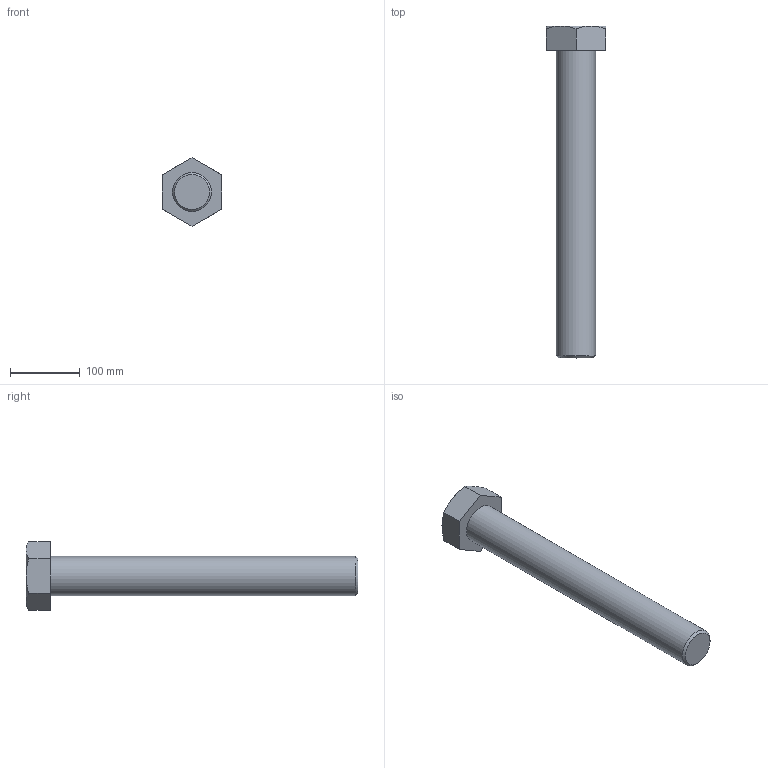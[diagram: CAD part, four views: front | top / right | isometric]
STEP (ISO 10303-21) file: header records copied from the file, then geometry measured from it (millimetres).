
FILE_DESCRIPTION(/* description */ (''),/* implementation_level */ '2;1');
FILE_NAME(/* name */ 'C:\Users\unitec\Documents\Inventor\各種小物\JIS\JIS B 1180 六角ボルト 等級C\hbc56\M56x440.stp',/* time_stamp */ '2015-02-13T15:00:17+09:00',/* author */ ('unitec'),/* organization */ (''),/* preprocessor_version */ 'ST-DEVELOPER v15.2',/* originating_system */ 'Autodesk Inventor 2014',/* authorisation */ '');
FILE_SCHEMA (('AUTOMOTIVE_DESIGN { 1 0 10303 214 3 1 1 }'));
Length unit declared in the file: millimetre
Products named in the file (1): M56x440
Bounding box: 85 x 475 x 98.15 mm (x, y, z)
Volume: 1301254.6 mm3; surface area: 99606.7 mm2
Topology: 1 solids, 1 shells, 17 faces, 35 edges, 21 vertices
Faces by surface type: plane 9, cone 7, cylinder 1
Full cylindrical faces by diameter (mm): 56 x1
Entity records: 441 total; most frequent: CARTESIAN_POINT 96, ORIENTED_EDGE 66, DIRECTION 66, EDGE_CURVE 33, AXIS2_PLACEMENT_3D 27, VERTEX_POINT 21, EDGE_LOOP 20, ADVANCED_FACE 17
